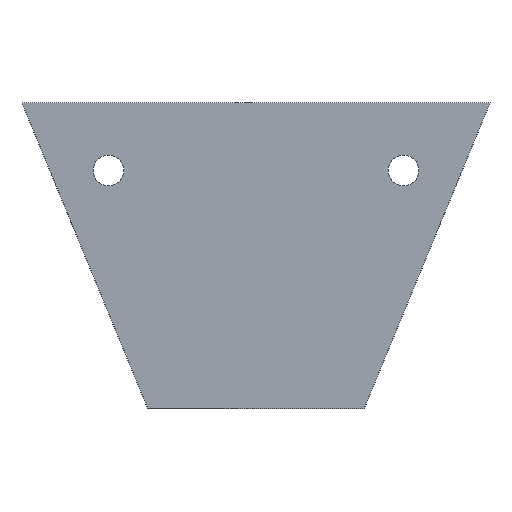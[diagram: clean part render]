
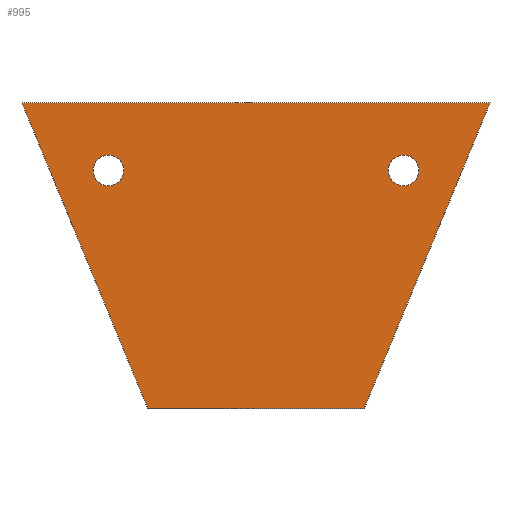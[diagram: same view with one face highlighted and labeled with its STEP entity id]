
A CAD part, front view. The second image highlights one B-rep face of the part: STEP entity #995.
In plain terms, the highlighted planar face has unit normal (0, -1, 0).
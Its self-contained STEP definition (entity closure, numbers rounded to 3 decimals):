
#42 = VERTEX_POINT ( 'NONE', #1182 ) ;
#44 = ORIENTED_EDGE ( 'NONE', *, *, #1109, .F. ) ;
#126 = DIRECTION ( 'NONE',  ( 0., 0., 1. ) ) ;
#132 = ORIENTED_EDGE ( 'NONE', *, *, #146, .T. ) ;
#144 = DIRECTION ( 'NONE',  ( 0., 1., 0. ) ) ;
#146 = EDGE_CURVE ( 'NONE', #1235, #1119, #1117, .T. ) ;
#163 = EDGE_CURVE ( 'NONE', #42, #834, #1513, .T. ) ;
#173 = VERTEX_POINT ( 'NONE', #565 ) ;
#175 = VERTEX_POINT ( 'NONE', #985 ) ;
#191 = AXIS2_PLACEMENT_3D ( 'NONE', #937, #1221, #1091 ) ;
#252 = VECTOR ( 'NONE', #1332, 1000. ) ;
#257 = EDGE_CURVE ( 'NONE', #1119, #1235, #401, .T. ) ;
#275 = VECTOR ( 'NONE', #1394, 1000. ) ;
#327 = AXIS2_PLACEMENT_3D ( 'NONE', #433, #144, #1553 ) ;
#331 = CARTESIAN_POINT ( 'NONE',  ( 190., -2.5, -170. ) ) ;
#338 = VECTOR ( 'NONE', #1448, 1000. ) ;
#363 = VERTEX_POINT ( 'NONE', #1538 ) ;
#368 = CIRCLE ( 'NONE', #915, 8.5 ) ;
#401 = CIRCLE ( 'NONE', #1604, 8.5 ) ;
#432 = CARTESIAN_POINT ( 'NONE',  ( 48., -2.5, -46. ) ) ;
#433 = CARTESIAN_POINT ( 'NONE',  ( 48., -2.5, -37.5 ) ) ;
#493 = DIRECTION ( 'NONE',  ( 0., 0., 1. ) ) ;
#506 = CARTESIAN_POINT ( 'NONE',  ( 70., -2.5, -170. ) ) ;
#565 = CARTESIAN_POINT ( 'NONE',  ( 0., -2.5, 0. ) ) ;
#597 = ORIENTED_EDGE ( 'NONE', *, *, #620, .F. ) ;
#600 = LINE ( 'NONE', #331, #252 ) ;
#620 = EDGE_CURVE ( 'NONE', #791, #173, #1031, .T. ) ;
#629 = CARTESIAN_POINT ( 'NONE',  ( 48., -2.5, -29. ) ) ;
#680 = CARTESIAN_POINT ( 'NONE',  ( 70., -2.5, -170. ) ) ;
#721 = EDGE_CURVE ( 'NONE', #175, #363, #600, .T. ) ;
#724 = EDGE_LOOP ( 'NONE', ( #132, #1470 ) ) ;
#730 = EDGE_LOOP ( 'NONE', ( #1696, #1171 ) ) ;
#744 = DIRECTION ( 'NONE',  ( 0., 1., 0. ) ) ;
#761 = CARTESIAN_POINT ( 'NONE',  ( 212., -2.5, -37.5 ) ) ;
#791 = VERTEX_POINT ( 'NONE', #506 ) ;
#834 = VERTEX_POINT ( 'NONE', #1201 ) ;
#841 = LINE ( 'NONE', #680, #1463 ) ;
#848 = CARTESIAN_POINT ( 'NONE',  ( 0., -2.5, 0. ) ) ;
#862 = FACE_BOUND ( 'NONE', #730, .T. ) ;
#867 = DIRECTION ( 'NONE',  ( 0., 1., 0. ) ) ;
#915 = AXIS2_PLACEMENT_3D ( 'NONE', #1744, #744, #493 ) ;
#937 = CARTESIAN_POINT ( 'NONE',  ( 0., -2.5, 0. ) ) ;
#969 = DIRECTION ( 'NONE',  ( 0., 1., 0. ) ) ;
#985 = CARTESIAN_POINT ( 'NONE',  ( 260., -2.5, 0. ) ) ;
#995 = ADVANCED_FACE ( 'NONE', ( #862, #1570, #1479 ), #1801, .T. ) ;
#1031 = LINE ( 'NONE', #1180, #338 ) ;
#1086 = DIRECTION ( 'NONE',  ( -1., 0., 0. ) ) ;
#1091 = DIRECTION ( 'NONE',  ( 0., 0., -1. ) ) ;
#1097 = ORIENTED_EDGE ( 'NONE', *, *, #1624, .F. ) ;
#1109 = EDGE_CURVE ( 'NONE', #173, #175, #1436, .T. ) ;
#1117 = CIRCLE ( 'NONE', #327, 8.5 ) ;
#1119 = VERTEX_POINT ( 'NONE', #432 ) ;
#1171 = ORIENTED_EDGE ( 'NONE', *, *, #1194, .T. ) ;
#1180 = CARTESIAN_POINT ( 'NONE',  ( 0., -2.5, 0. ) ) ;
#1182 = CARTESIAN_POINT ( 'NONE',  ( 212., -2.5, -29. ) ) ;
#1194 = EDGE_CURVE ( 'NONE', #834, #42, #368, .T. ) ;
#1201 = CARTESIAN_POINT ( 'NONE',  ( 212., -2.5, -46. ) ) ;
#1221 = DIRECTION ( 'NONE',  ( 0., -1., 0. ) ) ;
#1233 = CARTESIAN_POINT ( 'NONE',  ( 48., -2.5, -37.5 ) ) ;
#1235 = VERTEX_POINT ( 'NONE', #629 ) ;
#1332 = DIRECTION ( 'NONE',  ( -0.381, 0., -0.925 ) ) ;
#1394 = DIRECTION ( 'NONE',  ( 1., 0., 0. ) ) ;
#1436 = LINE ( 'NONE', #848, #275 ) ;
#1448 = DIRECTION ( 'NONE',  ( -0.381, 0., 0.925 ) ) ;
#1463 = VECTOR ( 'NONE', #1086, 1000. ) ;
#1470 = ORIENTED_EDGE ( 'NONE', *, *, #257, .T. ) ;
#1479 = FACE_OUTER_BOUND ( 'NONE', #1510, .T. ) ;
#1505 = AXIS2_PLACEMENT_3D ( 'NONE', #761, #867, #1753 ) ;
#1510 = EDGE_LOOP ( 'NONE', ( #597, #1097, #1791, #44 ) ) ;
#1513 = CIRCLE ( 'NONE', #1505, 8.5 ) ;
#1538 = CARTESIAN_POINT ( 'NONE',  ( 190., -2.5, -170. ) ) ;
#1553 = DIRECTION ( 'NONE',  ( 0., 0., 1. ) ) ;
#1570 = FACE_BOUND ( 'NONE', #724, .T. ) ;
#1604 = AXIS2_PLACEMENT_3D ( 'NONE', #1233, #969, #126 ) ;
#1624 = EDGE_CURVE ( 'NONE', #363, #791, #841, .T. ) ;
#1696 = ORIENTED_EDGE ( 'NONE', *, *, #163, .T. ) ;
#1744 = CARTESIAN_POINT ( 'NONE',  ( 212., -2.5, -37.5 ) ) ;
#1753 = DIRECTION ( 'NONE',  ( 0., 0., 1. ) ) ;
#1791 = ORIENTED_EDGE ( 'NONE', *, *, #721, .F. ) ;
#1801 = PLANE ( 'NONE',  #191 ) ;
